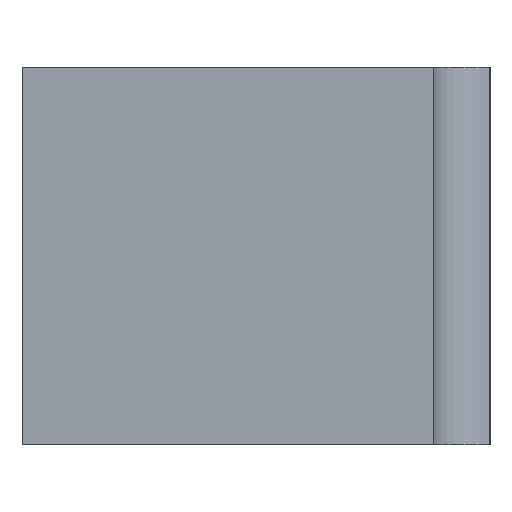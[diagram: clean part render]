
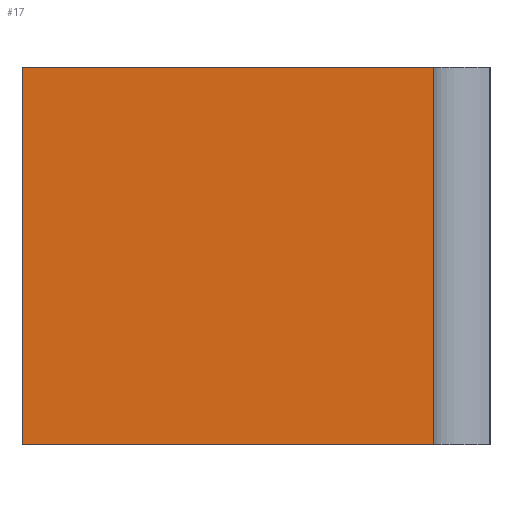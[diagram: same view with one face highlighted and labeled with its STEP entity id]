
A CAD part, left-side view. The second image highlights one B-rep face of the part: STEP entity #17.
In plain terms, the highlighted planar face has unit normal (-1, 0, 0).
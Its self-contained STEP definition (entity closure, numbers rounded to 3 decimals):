
#17 = ADVANCED_FACE('',(#18),#32,.F.);
#18 = FACE_BOUND('',#19,.F.);
#19 = EDGE_LOOP('',(#20,#55,#81,#109));
#20 = ORIENTED_EDGE('',*,*,#21,.F.);
#21 = EDGE_CURVE('',#22,#24,#26,.T.);
#22 = VERTEX_POINT('',#23);
#23 = CARTESIAN_POINT('',(0.,-2.35,5.));
#24 = VERTEX_POINT('',#25);
#25 = CARTESIAN_POINT('',(0.,3.1,5.));
#26 = SURFACE_CURVE('',#27,(#31,#43),.PCURVE_S1.);
#27 = LINE('',#28,#29);
#28 = CARTESIAN_POINT('',(0.,-3.1,5.));
#29 = VECTOR('',#30,1.);
#30 = DIRECTION('',(0.,1.,0.));
#31 = PCURVE('',#32,#37);
#32 = PLANE('',#33);
#33 = AXIS2_PLACEMENT_3D('',#34,#35,#36);
#34 = CARTESIAN_POINT('',(0.,-3.1,0.));
#35 = DIRECTION('',(1.,0.,0.));
#36 = DIRECTION('',(0.,0.,1.));
#37 = DEFINITIONAL_REPRESENTATION('',(#38),#42);
#38 = LINE('',#39,#40);
#39 = CARTESIAN_POINT('',(5.,0.));
#40 = VECTOR('',#41,1.);
#41 = DIRECTION('',(0.,-1.));
#42 = ( GEOMETRIC_REPRESENTATION_CONTEXT(2) 
PARAMETRIC_REPRESENTATION_CONTEXT() REPRESENTATION_CONTEXT('2D SPACE',''
  ) );
#43 = PCURVE('',#44,#49);
#44 = PLANE('',#45);
#45 = AXIS2_PLACEMENT_3D('',#46,#47,#48);
#46 = CARTESIAN_POINT('',(0.,-3.1,5.));
#47 = DIRECTION('',(0.,0.,1.));
#48 = DIRECTION('',(1.,0.,0.));
#49 = DEFINITIONAL_REPRESENTATION('',(#50),#54);
#50 = LINE('',#51,#52);
#51 = CARTESIAN_POINT('',(0.,0.));
#52 = VECTOR('',#53,1.);
#53 = DIRECTION('',(0.,1.));
#54 = ( GEOMETRIC_REPRESENTATION_CONTEXT(2) 
PARAMETRIC_REPRESENTATION_CONTEXT() REPRESENTATION_CONTEXT('2D SPACE',''
  ) );
#55 = ORIENTED_EDGE('',*,*,#56,.T.);
#56 = EDGE_CURVE('',#22,#57,#59,.T.);
#57 = VERTEX_POINT('',#58);
#58 = CARTESIAN_POINT('',(0.,-2.35,0.));
#59 = SURFACE_CURVE('',#60,(#64,#70),.PCURVE_S1.);
#60 = LINE('',#61,#62);
#61 = CARTESIAN_POINT('',(0.,-2.35,-0.01));
#62 = VECTOR('',#63,1.);
#63 = DIRECTION('',(-0.,-0.,-1.));
#64 = PCURVE('',#32,#65);
#65 = DEFINITIONAL_REPRESENTATION('',(#66),#69);
#66 = B_SPLINE_CURVE_WITH_KNOTS('',1,(#67,#68),.UNSPECIFIED.,.F.,.F.,(2,
    2),(-5.02,0.),.PIECEWISE_BEZIER_KNOTS.);
#67 = CARTESIAN_POINT('',(5.01,-0.75));
#68 = CARTESIAN_POINT('',(-0.01,-0.75));
#69 = ( GEOMETRIC_REPRESENTATION_CONTEXT(2) 
PARAMETRIC_REPRESENTATION_CONTEXT() REPRESENTATION_CONTEXT('2D SPACE',''
  ) );
#70 = PCURVE('',#71,#76);
#71 = CYLINDRICAL_SURFACE('',#72,0.75);
#72 = AXIS2_PLACEMENT_3D('',#73,#74,#75);
#73 = CARTESIAN_POINT('',(0.,-3.1,-0.01));
#74 = DIRECTION('',(-0.,-0.,-1.));
#75 = DIRECTION('',(1.,0.,0.));
#76 = DEFINITIONAL_REPRESENTATION('',(#77),#80);
#77 = B_SPLINE_CURVE_WITH_KNOTS('',1,(#78,#79),.UNSPECIFIED.,.F.,.F.,(2,
    2),(-5.02,0.),.PIECEWISE_BEZIER_KNOTS.);
#78 = CARTESIAN_POINT('',(-1.571,-5.02));
#79 = CARTESIAN_POINT('',(-1.571,0.));
#80 = ( GEOMETRIC_REPRESENTATION_CONTEXT(2) 
PARAMETRIC_REPRESENTATION_CONTEXT() REPRESENTATION_CONTEXT('2D SPACE',''
  ) );
#81 = ORIENTED_EDGE('',*,*,#82,.T.);
#82 = EDGE_CURVE('',#57,#83,#85,.T.);
#83 = VERTEX_POINT('',#84);
#84 = CARTESIAN_POINT('',(0.,3.1,0.));
#85 = SURFACE_CURVE('',#86,(#90,#97),.PCURVE_S1.);
#86 = LINE('',#87,#88);
#87 = CARTESIAN_POINT('',(0.,-3.1,0.));
#88 = VECTOR('',#89,1.);
#89 = DIRECTION('',(0.,1.,0.));
#90 = PCURVE('',#32,#91);
#91 = DEFINITIONAL_REPRESENTATION('',(#92),#96);
#92 = LINE('',#93,#94);
#93 = CARTESIAN_POINT('',(0.,0.));
#94 = VECTOR('',#95,1.);
#95 = DIRECTION('',(0.,-1.));
#96 = ( GEOMETRIC_REPRESENTATION_CONTEXT(2) 
PARAMETRIC_REPRESENTATION_CONTEXT() REPRESENTATION_CONTEXT('2D SPACE',''
  ) );
#97 = PCURVE('',#98,#103);
#98 = PLANE('',#99);
#99 = AXIS2_PLACEMENT_3D('',#100,#101,#102);
#100 = CARTESIAN_POINT('',(0.,-3.1,0.));
#101 = DIRECTION('',(0.,0.,1.));
#102 = DIRECTION('',(1.,0.,0.));
#103 = DEFINITIONAL_REPRESENTATION('',(#104),#108);
#104 = LINE('',#105,#106);
#105 = CARTESIAN_POINT('',(0.,0.));
#106 = VECTOR('',#107,1.);
#107 = DIRECTION('',(0.,1.));
#108 = ( GEOMETRIC_REPRESENTATION_CONTEXT(2) 
PARAMETRIC_REPRESENTATION_CONTEXT() REPRESENTATION_CONTEXT('2D SPACE',''
  ) );
#109 = ORIENTED_EDGE('',*,*,#110,.T.);
#110 = EDGE_CURVE('',#83,#24,#111,.T.);
#111 = SURFACE_CURVE('',#112,(#116,#123),.PCURVE_S1.);
#112 = LINE('',#113,#114);
#113 = CARTESIAN_POINT('',(0.,3.1,0.));
#114 = VECTOR('',#115,1.);
#115 = DIRECTION('',(0.,0.,1.));
#116 = PCURVE('',#32,#117);
#117 = DEFINITIONAL_REPRESENTATION('',(#118),#122);
#118 = LINE('',#119,#120);
#119 = CARTESIAN_POINT('',(0.,-6.2));
#120 = VECTOR('',#121,1.);
#121 = DIRECTION('',(1.,0.));
#122 = ( GEOMETRIC_REPRESENTATION_CONTEXT(2) 
PARAMETRIC_REPRESENTATION_CONTEXT() REPRESENTATION_CONTEXT('2D SPACE',''
  ) );
#123 = PCURVE('',#124,#129);
#124 = PLANE('',#125);
#125 = AXIS2_PLACEMENT_3D('',#126,#127,#128);
#126 = CARTESIAN_POINT('',(0.,3.1,0.));
#127 = DIRECTION('',(0.,1.,0.));
#128 = DIRECTION('',(0.,0.,1.));
#129 = DEFINITIONAL_REPRESENTATION('',(#130),#134);
#130 = LINE('',#131,#132);
#131 = CARTESIAN_POINT('',(0.,0.));
#132 = VECTOR('',#133,1.);
#133 = DIRECTION('',(1.,0.));
#134 = ( GEOMETRIC_REPRESENTATION_CONTEXT(2) 
PARAMETRIC_REPRESENTATION_CONTEXT() REPRESENTATION_CONTEXT('2D SPACE',''
  ) );
